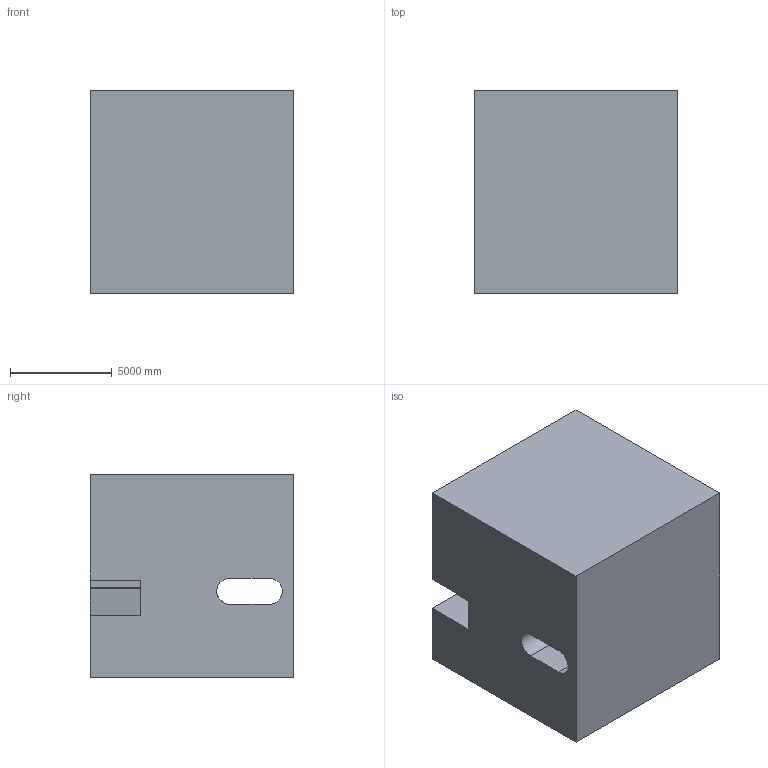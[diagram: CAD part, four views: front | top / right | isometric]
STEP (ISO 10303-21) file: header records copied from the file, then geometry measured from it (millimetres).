
FILE_DESCRIPTION (( 'STEP AP203' ), '1' );
FILE_NAME ('1317.STEP', '2022-08-18T13:44:03', ( 'user' ), ( '' ), 'SwSTEP 2.0', 'SolidWorks 2021', '' );
FILE_SCHEMA (( 'CONFIG_CONTROL_DESIGN' ));
Length unit declared in the file: centimetre
Products named in the file (1): 1317
Bounding box: 10000 x 10000 x 10000 mm (x, y, z)
Volume: 863514888785.4 mm3; surface area: 775437146.9 mm2
Topology: 1 solids, 1 shells, 32 faces, 93 edges, 62 vertices
Faces by surface type: plane 29, cylinder 3
Entity records: 1126 total; most frequent: CARTESIAN_POINT 194, ORIENTED_EDGE 186, DIRECTION 161, EDGE_CURVE 93, LINE 87, VECTOR 87, VERTEX_POINT 62, AXIS2_PLACEMENT_3D 37
